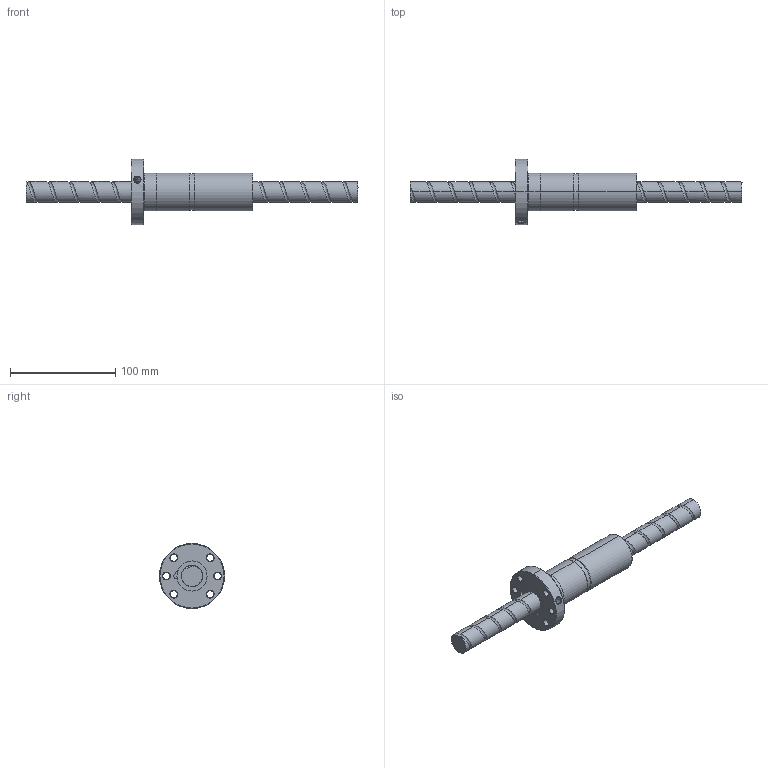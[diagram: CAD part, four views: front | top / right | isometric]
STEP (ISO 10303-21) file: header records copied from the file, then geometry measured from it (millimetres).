
FILE_DESCRIPTION (( 'STEP AP214' ), '1' );
FILE_NAME ('FDDC02020T2-B-A.STEP', '2010-07-06T02:59:20', ( 'XPAUTO' ), ( 'XPAUTO' ), 'SwSTEP 2.0', 'SolidWorks 2007', '' );
FILE_SCHEMA (( 'AUTOMOTIVE_DESIGN' ));
Length unit declared in the file: millimetre
Products named in the file (3): FDDC02020T2-B-A; FDDC02020T2-B-A.sldasm-Part-2_預設; FDDC02020T2-B-A.sldasm-Part-1_預設
Assembly tree (2 placements, depth 2):
  FDDC02020T2-B-A
    FDDC02020T2-B-A.sldasm-Part-2_預設
    FDDC02020T2-B-A.sldasm-Part-1_預設
Bounding box: 316 x 62 x 62 mm (x, y, z)
Volume: 196767.9 mm3; surface area: 49817.9 mm2
Topology: 2 solids, 2 shells, 129 faces, 317 edges, 197 vertices
Faces by surface type: cylinder 74, cone 24, plane 16, torus 10, bspline 5
Entity records: 25106 total; most frequent: CARTESIAN_POINT 22031, ORIENTED_EDGE 634, DIRECTION 615, EDGE_CURVE 317, AXIS2_PLACEMENT_3D 255, VERTEX_POINT 197, EDGE_LOOP 150, FACE_OUTER_BOUND 129
